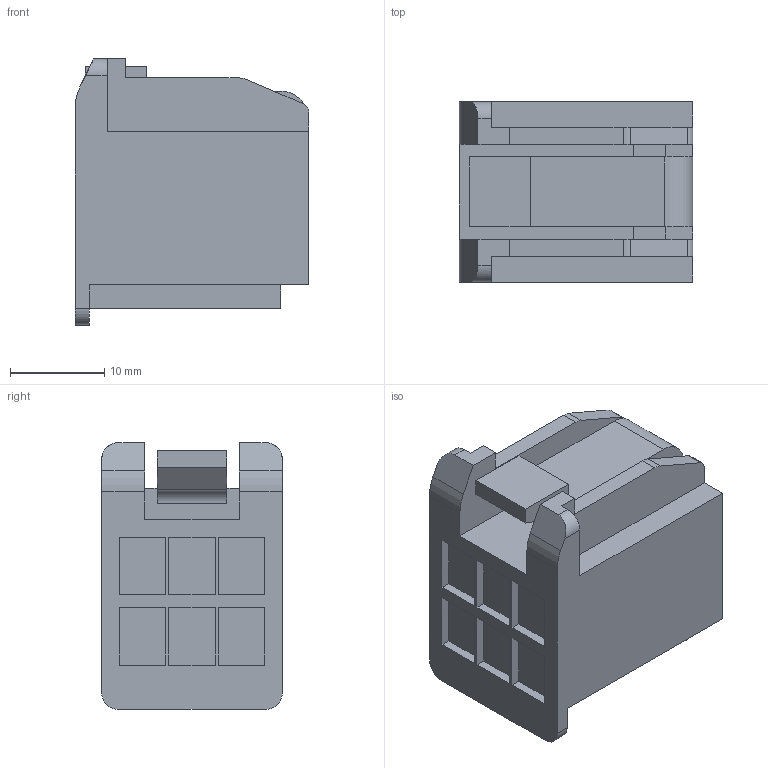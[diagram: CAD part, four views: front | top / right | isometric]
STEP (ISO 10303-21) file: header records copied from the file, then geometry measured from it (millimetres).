
FILE_DESCRIPTION(('CATIA V5 STEP Exchange','CAx-IF Rec.Pracs.--- Model Styling and Organization---1.2---2011-12-15'),'2;1');
FILE_NAME('\\Fss01.ad.sws.co.jp\fs030008\技術管理部\共通\業務\3D設計推進\カタログ用３Ｄ\仮置き\US.(Usealed)\6098-6415.stp','2016-02-18T05:38:24+00:00',('none'),('none'),'CATIA Version 5-6 Release 2013 SP5 HF43','CATIA V5 STEP AP214','none');
FILE_SCHEMA(('AUTOMOTIVE_DESIGN { 1 0 10303 214 1 1 1 1 }'));
Length unit declared in the file: millimetre
Products named in the file (1): 6098-6415
Bounding box: 24.8 x 19.15 x 28.3 mm (x, y, z)
Volume: 8835.7 mm3; surface area: 4054.4 mm2
Topology: 1 solids, 1 shells, 129 faces, 351 edges, 236 vertices
Faces by surface type: plane 116, cylinder 13
Entity records: 3931 total; most frequent: ORIENTED_EDGE 702, CARTESIAN_POINT 682, DIRECTION 517, EDGE_CURVE 351, VECTOR 325, LINE 325, VERTEX_POINT 236, EDGE_LOOP 141
